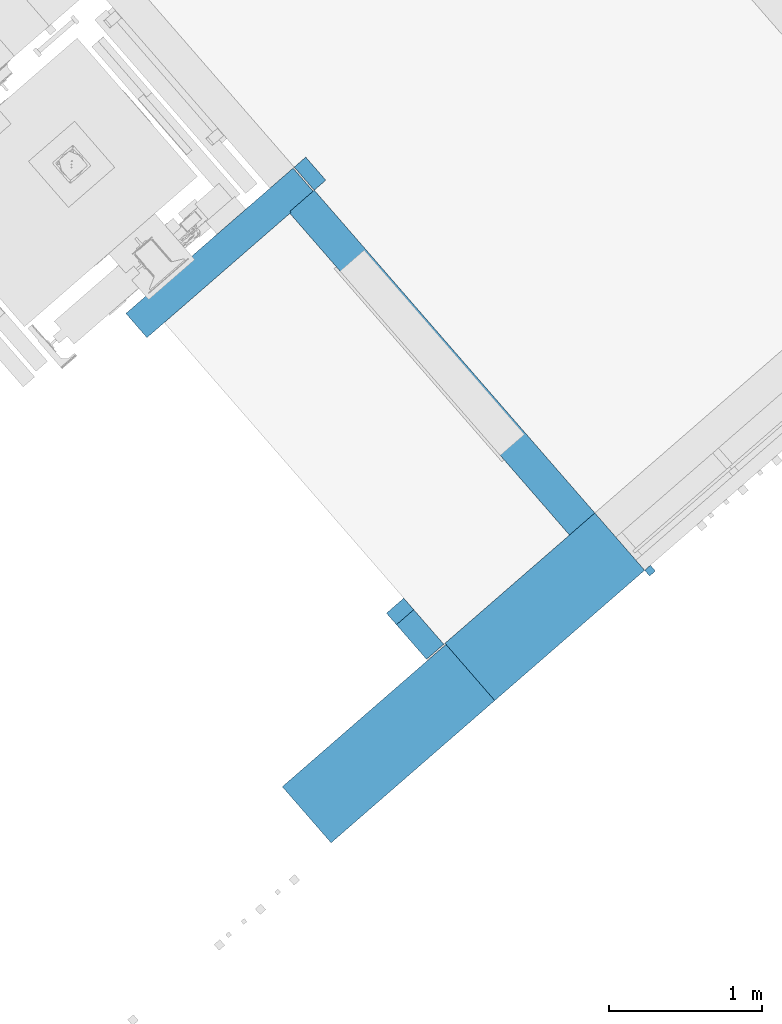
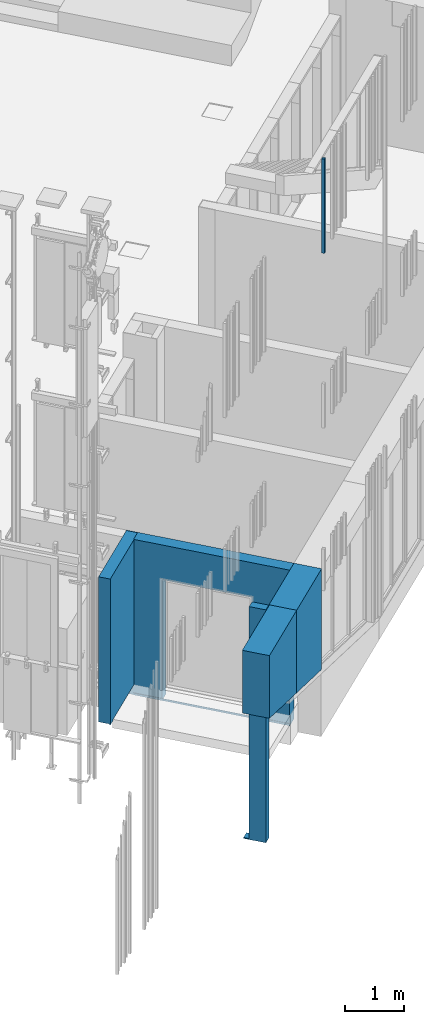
# One storey, part 31 of 124: 6 walls.
"""IFC2X3 building model written with IfcOpenShell, lengths in millimetres."""

from ifc_helpers import new_model, entity, si_unit, converted_unit, derived_unit, money_unit, direction, frame, origin_with_axes, place, context, subcontext, project, spatial, faceted_brep, material, material_list, type_object, element, save


model = new_model("IFC2X3")

# Units and contexts
model_context = context("Model", 3, precision=1e-05, world=origin_with_axes(), true_north=direction((0.0, 1.0)))
body_context = subcontext(model_context, "Body", "Model", "MODEL_VIEW")
ifc_project = project(units=[si_unit("LENGTHUNIT", "METRE", prefix="MILLI"), si_unit("AREAUNIT", "SQUARE_METRE"), si_unit("VOLUMEUNIT", "CUBIC_METRE"), converted_unit("PLANEANGLEUNIT", "DEGREE", entity("IfcPlaneAngleMeasure", 0.0174532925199), si_unit("PLANEANGLEUNIT", "RADIAN"), dimensions=[0, 0, 0, 0, 0, 0, 0]), si_unit("SOLIDANGLEUNIT", "STERADIAN"), money_unit("EUR"), converted_unit("TIMEUNIT", "Year", entity("IfcTimeMeasure", 31556926.0), si_unit("TIMEUNIT", "SECOND"), dimensions=[0, 0, 1, 0, 0, 0, 0]), si_unit("MASSUNIT", "GRAM", prefix="KILO"), si_unit("THERMODYNAMICTEMPERATUREUNIT", "DEGREE_CELSIUS"), si_unit("LUMINOUSINTENSITYUNIT", "LUMEN"), si_unit("ENERGYUNIT", "JOULE", prefix="MEGA"), derived_unit("THERMALCONDUCTANCEUNIT", [(si_unit("POWERUNIT", "WATT"), 1), (si_unit("LENGTHUNIT", "METRE"), -1), (si_unit("THERMODYNAMICTEMPERATUREUNIT", "KELVIN"), -1)]), derived_unit("SPECIFICHEATCAPACITYUNIT", [(si_unit("ENERGYUNIT", "JOULE"), 1), (si_unit("MASSUNIT", "GRAM", prefix="KILO"), -1), (si_unit("THERMODYNAMICTEMPERATUREUNIT", "KELVIN"), -1)]), derived_unit("MASSDENSITYUNIT", [(si_unit("MASSUNIT", "GRAM", prefix="KILO"), 1), (si_unit("VOLUMEUNIT", "CUBIC_METRE"), -1)])], contexts=[model_context])

# Site, building, storey
site_placement = place(None, origin_with_axes())
site = spatial("IfcSite", under=ifc_project, at=site_placement, Name="Site", CompositionType="ELEMENT")
building_placement = place(site_placement, origin_with_axes())
building = spatial("IfcBuilding", under=site, at=building_placement, Name="Building", CompositionType="ELEMENT")
storey_placement = place(building_placement, frame((0.0, 0.0, -1615.0), z_axis=(0.0, 0.0, 1.0), x_axis=(1.0, 0.0, 0.0)))
storey = spatial("IfcBuildingStorey", under=building, at=storey_placement, Name="0  korrus", CompositionType="ELEMENT", Elevation=-1615.0)

# Walls
ifc_material_1 = material(Name="Müüriplokk - Konstuktsioon")
wall_type_1 = type_object("IfcWallType", Name="SS-06", PredefinedType="NOTDEFINED")
wall_1_placement = place(storey_placement, frame((149434.774748, 75223.9412925, -1820.0), z_axis=(0.0, 0.0, 1.0), x_axis=(-0.656059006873, 0.754709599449, 0.0)))
element("IfcWall", 1, at=wall_1_placement, inside=storey, type_object=wall_type_1, material=ifc_material_1, Name="SS-06", context=body_context, shape_type="Brep", body=[
    faceted_brep([(399.992824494, -150.0, 20.0), (299.992820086, -150.0, 20.0), (299.992820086, -150.0, 4820.0), (0.0, -150.0, 4820.0), (0.0, -150.0, 0.0), (399.992824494, -150.0, 0.0), (399.992820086, 0.0, 20.0), (299.992820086, 0.0, 20.0), (299.992820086, 0.0, 4820.0), (0.0, 0.0, 4820.0), (0.0, 0.0, 0.0), (399.992820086, 0.0, 0.0)], [[[0, 1, 2, 3, 4, 5]], [[6, 7, 1, 0]], [[1, 7, 8, 2]], [[9, 3, 2, 8]], [[9, 10, 4, 3]], [[4, 10, 11, 5]], [[5, 11, 6, 0]], [[10, 9, 8, 7, 6, 11]]]),
])
ifc_material_2 = material(Name="Krohv - Lubjakivi")
ifc_material_3 = material(Name="Raudbetoon - Konstruktsioon")
ifc_material_list_1 = material_list([ifc_material_2, ifc_material_3, ifc_material_2, ifc_material_2])
wall_type_2 = type_object("IfcWallType", Name="SS-10", PredefinedType="NOTDEFINED")
wall_2_placement = place(storey_placement, frame((148402.4644, 78301.606577, -220.0), z_axis=(0.0, 0.0, 1.0), x_axis=(0.656059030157, -0.754709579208, 0.0)))
element("IfcWall", 2, at=wall_2_placement, inside=storey, type_object=wall_type_2, material=ifc_material_list_1, Name="SS-10", context=body_context, shape_type="Brep", body=[
    faceted_brep([(709.999999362, 220.0, 2500.0), (709.999999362, 220.0000005, 220.0), (709.999999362, 220.0, 0.0), (-0.000990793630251, 220.0, 0.0), (-0.000990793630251, 220.0000005, 200.0), (199.999009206, 220.000000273, 200.0), (199.999009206, 220.000000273, 219.999999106), (-0.000990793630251, 220.0000005, 219.999999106), (-0.000113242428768, 220.0, 3220.0), (2999.99999884, 220.0, 3220.0), (2999.99999884, 220.0, 0.0), (2309.99999936, 220.0, 0.0), (2309.99999936, 220.0000005, 220.0), (2309.99999936, 220.0, 2500.0), (709.999999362, 210.0, 2500.0), (709.999999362, 210.0, 220.0), (709.999999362, 210.0, 0.0), (-0.000984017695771, 210.0, 0.0), (-0.000984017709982, 210.0, 200.0), (199.999015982, 210.0, 200.0), (199.999015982, 210.0, 219.999999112), (-0.000984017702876, 210.0, 219.999999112), (-0.000108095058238, 210.0, 3220.0), (2999.99999884, 210.0, 3220.0), (2999.99999884, 210.0, 0.0), (2309.99999936, 210.0, 0.0), (2309.99999936, 210.0, 220.0), (2309.99999936, 210.0, 2500.0)], [[[0, 1, 2, 3, 4, 5, 6, 7, 8, 9, 10, 11, 12, 13]], [[1, 0, 14, 15]], [[1, 15, 16, 2]], [[16, 17, 3, 2]], [[18, 4, 3, 17]], [[5, 4, 18, 19]], [[6, 5, 19, 20]], [[7, 6, 20, 21]], [[7, 21, 22, 8]], [[9, 8, 22, 23]], [[23, 24, 10, 9]], [[11, 10, 24, 25]], [[26, 12, 11, 25]], [[13, 12, 26, 27]], [[0, 13, 27, 14]], [[27, 26, 25, 24, 23, 22, 21, 20, 19, 18, 17, 16, 15, 14]]]),
    faceted_brep([(709.999999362, 210.0, 2500.0), (709.999999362, 210.0, 220.0), (709.999999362, 210.0, 0.0), (-0.000984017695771, 210.0, 0.0), (-0.000984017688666, 210.0, 200.0), (199.999015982, 210.0, 200.0), (199.999891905, 210.0, 3220.0), (2999.99999884, 210.0, 3220.0), (2999.99999884, 210.0, 0.0), (2309.99999936, 210.0, 0.0), (2309.99999936, 210.0, 220.0), (2309.99999936, 210.0, 2500.0), (709.999999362, 10.0024561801, 2500.0), (709.999999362, 10.0025503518, 2494.88151173), (709.999999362, 10.0025508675, 220.0), (709.999999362, 10.0025508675, 0.0), (-0.000848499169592, 9.99999999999, 0.0), (-0.000848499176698, 9.99999999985, 200.0), (199.999151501, 10.0, 200.0), (199.999994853, 10.0, 3220.0), (2999.99999884, 9.99999999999, 3220.0), (2999.99999884, 9.99999999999, 0.0), (2309.99999936, 10.0105514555, 0.0), (2309.99999936, 10.0105514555, 220.0), (2309.99999936, 9.99999999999, 793.499998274), (2309.99999936, 9.99999999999, 2500.0), (826.086952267, 10.0, 2500.0)], [[[0, 1, 2, 3, 4, 5, 6, 7, 8, 9, 10, 11]], [[1, 0, 12, 13, 14]], [[1, 14, 15, 2]], [[15, 16, 3, 2]], [[4, 3, 16, 17]], [[4, 17, 18, 5]], [[5, 18, 19, 6]], [[19, 20, 7, 6]], [[21, 8, 7, 20]], [[9, 8, 21, 22]], [[23, 10, 9, 22]], [[11, 10, 23, 24, 25]], [[0, 11, 25, 26, 12]], [[12, 26, 19, 13]], [[14, 13, 19, 18, 17, 16, 15]], [[25, 24, 21, 20, 19, 26]], [[22, 21, 23]], [[24, 23, 21]]]),
    faceted_brep([(200.000000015, 10.00000068, 40.0), (2999.99999884, 9.99999999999, 40.0), (2999.99999884, 9.99999999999, 0.0), (199.999151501, 10.0001360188, 0.0), (2999.99999884, 0.0, 40.0), (200.000005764, 4.83169060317e-10, 40.0), (2999.99999884, 0.0, 0.0), (199.999158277, 0.0, 0.0)], [[[0, 1, 2, 3]], [[4, 1, 0, 5]], [[1, 4, 6, 2]], [[6, 7, 3, 2]], [[5, 0, 3, 7]], [[4, 5, 7, 6]]]),
    faceted_brep([(709.999999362, 9.99999999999, 2500.0), (709.999999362, 10.0000416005, 220.0), (209.999994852, 10.0000506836, 220.0), (209.999994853, 10.0, 3220.0), (2999.99999884, 9.99999999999, 3220.0), (2999.99999884, 9.99999999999, 220.0), (2309.99999936, 10.0000125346, 220.0), (2309.99999936, 9.99999999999, 2500.0), (709.999999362, 0.0, 2500.0), (709.999999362, 0.0, 220.0), (210.0, 0.0, 220.0), (210.0, 0.0, 3220.0), (2999.99999884, 0.0, 3220.0), (2999.99999884, 0.0, 220.0), (2309.99999936, 0.0, 220.0), (2309.99999936, 0.0, 2500.0)], [[[0, 1, 2, 3, 4, 5, 6, 7]], [[1, 0, 8, 9]], [[1, 9, 10, 2]], [[10, 11, 3, 2]], [[3, 11, 12, 4]], [[5, 4, 12, 13]], [[14, 6, 5, 13]], [[7, 6, 14, 15]], [[0, 7, 15, 8]], [[15, 14, 13, 12, 11, 10, 9, 8]]]),
])
ifc_material_list_2 = material_list([ifc_material_2, ifc_material_3, ifc_material_3])
wall_type_3 = type_object("IfcWallType", Name="SS-11", PredefinedType="NOTDEFINED")
wall_3_placement = place(storey_placement, frame((148402.4644, 78301.606577, -20.0), z_axis=(0.0, 0.0, 1.0), x_axis=(-0.75470924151, -0.656059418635, 0.0)))
element("IfcWall", 3, at=wall_3_placement, inside=storey, type_object=wall_type_3, material=ifc_material_list_2, Name="SS-11", context=body_context, shape_type="Brep", body=[
    faceted_brep([(1090.03568854, 210.0, 0.0), (1090.03568854, 210.0, 20.0), (0.000108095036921, 210.0, 20.0), (-9.99989190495, 210.0, 19.9999992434), (-9.99989190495, 210.0, 3020.0), (1240.0317344, 210.0, 3020.0), (1240.0317344, 210.0, 0.0), (1090.03568334, 200.000071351, 0.0), (1090.03568334, 200.000071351, 20.0), (0.000102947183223, 200.000005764, 20.0), (-9.99989705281, 199.999158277, 19.9999992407), (-9.99989705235, 200.0, 3020.0), (1240.0317344, 200.0, 3020.0), (1240.0317344, 200.0, 0.0)], [[[0, 1, 2, 3, 4, 5, 6]], [[1, 0, 7, 8]], [[2, 1, 8, 9, 10, 3]], [[4, 3, 10, 11]], [[5, 4, 11, 12]], [[5, 12, 13, 6]], [[7, 0, 6, 13]], [[8, 7, 13, 12, 11, 10, 9]]]),
    faceted_brep([(1239.99996943, 199.999360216, 20.0), (1240.0317344, 199.9993602, 20.0), (1240.0317344, 0.0, 20.0), (1240.000002, -0.000639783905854, 20.0), (1240.0317344, 200.0, 3020.0), (-9.99989705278, 199.999156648, 19.9999992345), (-209.999897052, 200.0, 20.0), (-209.999897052, 200.0, 3020.0), (1240.0317344, 0.0, 3020.0), (-210.0, 0.0, 3020.0), (-210.0, -0.000816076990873, 20.0)], [[[0, 1, 2, 3]], [[4, 1, 0, 5, 6, 7]], [[1, 4, 8, 2]], [[2, 8, 9, 10, 3]], [[0, 3, 10, 6, 5]], [[7, 6, 10, 9]], [[8, 4, 7, 9]]]),
    faceted_brep([(-219.999897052, 200.0, 20.0), (-219.999897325, 199.999122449, 0.0), (-320.0, 200.0, 0.0), (-320.0, 200.0, 20.0), (-220.0, 0.0, 20.0), (-220.000000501, -0.000877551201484, 0.0), (-320.0, 0.0, 0.0), (-320.0, 0.0, 20.0)], [[[0, 1, 2, 3]], [[1, 0, 4, 5]], [[1, 5, 6, 2]], [[6, 7, 3, 2]], [[4, 0, 3, 7]], [[7, 6, 5, 4]]]),
])
ifc_material_4 = material(Name="Raudbetoon - Toode")
ifc_material_5 = material(Name="Soojustus - Plastik Kõva")
ifc_material_6 = material(Name="Õhkvahe")
ifc_material_7 = material(Name="Puit - Konstruktsioon")
ifc_material_list_3 = material_list([ifc_material_4, ifc_material_5, ifc_material_5, ifc_material_6, ifc_material_7, ifc_material_7])
wall_type_4 = type_object("IfcWallType", Name="VS-01*", PredefinedType="NOTDEFINED")
wall_4_placement = place(storey_placement, frame((148490.428141, 74389.7831815, -415.0), z_axis=(0.0, 0.0, 1.0), x_axis=(0.754709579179, 0.656059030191, 0.0)))
element("IfcWall", 4, at=wall_4_placement, inside=storey, type_object=wall_type_4, material=ifc_material_list_3, Name="VS-01*", context=body_context, shape_type="Brep", body=[
    faceted_brep([(0.0, -200.0, 2117.99999366), (1419.96442219, -200.0, 1706.64205776), (1419.96442219, -200.0, 3415.0), (0.0, -200.0, 3415.0), (1419.96442219, 0.0, 1706.64205784), (0.0, 0.0, 2117.99999375), (1419.96442219, 0.0, 3415.0), (0.0, 0.0, 3415.0)], [[[0, 1, 2, 3]], [[4, 1, 0, 5]], [[1, 4, 6, 2]], [[7, 3, 2, 6]], [[5, 0, 3, 7]], [[4, 5, 7, 6]]]),
    faceted_brep([(0.0, -350.0, 2117.9999936), (1419.96442219, -350.0, 1706.6420577), (1419.96442219, -350.0, 3415.0), (0.0, -350.0, 3415.0), (1419.96442219, -200.0, 1706.64205776), (0.0, -200.0, 2117.99999366), (1419.96442219, -200.0, 3415.0), (0.0, -200.0, 3415.0)], [[[0, 1, 2, 3]], [[4, 1, 0, 5]], [[1, 4, 6, 2]], [[7, 3, 2, 6]], [[5, 0, 3, 7]], [[4, 5, 7, 6]]]),
    faceted_brep([(0.0, -400.0, 2117.99999358), (1419.96442219, -400.0, 1706.64205767), (1419.96442219, -400.0, 3415.0), (0.0, -400.0, 3415.0), (1419.96442219, -350.0, 1706.6420577), (0.0, -350.0, 2117.9999936), (1419.96442219, -350.0, 3415.0), (0.0, -350.0, 3415.0)], [[[0, 1, 2, 3]], [[4, 1, 0, 5]], [[1, 4, 6, 2]], [[7, 3, 2, 6]], [[5, 0, 3, 7]], [[4, 5, 7, 6]]]),
    faceted_brep([(0.0, -445.0, 2117.99999356), (1419.96442219, -445.0, 1706.64205766), (1419.96442219, -445.0, 3415.0), (0.0, -445.0, 3415.0), (1419.96442219, -400.0, 1706.64205767), (0.0, -400.0, 2117.99999358), (1419.96442219, -400.0, 3415.0), (0.0, -400.0, 3415.0)], [[[0, 1, 2, 3]], [[4, 1, 0, 5]], [[1, 4, 6, 2]], [[7, 3, 2, 6]], [[5, 0, 3, 7]], [[4, 5, 7, 6]]]),
    faceted_brep([(0.0, -465.0, 2117.99999355), (1419.96442219, -465.0, 1706.64205765), (1419.96442219, -465.0, 3415.0), (0.0, -465.0, 3415.0), (1419.96442219, -445.0, 1706.64205766), (0.0, -445.0, 2117.99999356), (1419.96442219, -445.0, 3415.0), (0.0, -445.0, 3415.0)], [[[0, 1, 2, 3]], [[4, 1, 0, 5]], [[1, 4, 6, 2]], [[7, 3, 2, 6]], [[5, 0, 3, 7]], [[4, 5, 7, 6]]]),
    faceted_brep([(0.0, -487.0, 2117.99999354), (1419.96442219, -487.0, 1706.64205764), (1419.96442219, -487.0, 3415.0), (0.0, -487.0, 3415.0), (1419.96442219, -465.0, 1706.64205765), (0.0, -465.0, 2117.99999355), (1419.96442219, -465.0, 3415.0), (0.0, -465.0, 3415.0)], [[[0, 1, 2, 3]], [[4, 1, 0, 5]], [[1, 4, 6, 2]], [[7, 3, 2, 6]], [[5, 0, 3, 7]], [[4, 5, 7, 6]]]),
])
ifc_material_list_4 = material_list([ifc_material_2, ifc_material_4, ifc_material_5, ifc_material_5, ifc_material_6, ifc_material_7, ifc_material_7])
wall_type_5 = type_object("IfcWallType", Name="VS-01", PredefinedType="NOTDEFINED")
wall_5_placement = place(storey_placement, frame((149555.526075, 75328.9088223, 927.022935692), z_axis=(0.0, 0.0, 1.0), x_axis=(0.754705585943, 0.656063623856, 0.0)))
element("IfcWall", 5, at=wall_5_placement, inside=storey, type_object=wall_type_5, material=ifc_material_list_4, Name="VS-01", context=body_context, shape_type="Brep", body=[
    faceted_brep([(0.0, -10.0, 364.619959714), (1258.62983363, -10.0, 0.0), (1300.04958561, -10.0, 0.0), (1300.04958561, -10.0, 2072.97706431), (0.0, -10.0, 2072.97706431), (1258.62989451, 0.0, 0.0), (0.0, 0.0, 364.619977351), (1300.04958561, 0.0, 0.0), (1300.04958561, 0.0, 2072.97706431), (0.0, 0.0, 2072.97706431)], [[[0, 1, 2, 3, 4]], [[5, 1, 0, 6]], [[1, 5, 7, 2]], [[8, 3, 2, 7]], [[4, 3, 8, 9]], [[6, 0, 4, 9]], [[5, 6, 9, 8, 7]]]),
    faceted_brep([(0.0, -210.0, 364.619606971), (1258.628616, -210.0, 0.0), (1300.04958561, -210.0, 0.0), (1300.04958561, -210.0, 2072.97706431), (0.0, -210.0, 2072.97706431), (1258.62983363, -10.0, 0.0), (0.0, -10.0, 364.619959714), (1300.04958561, -10.0, 0.0), (1300.04958561, -10.0, 2072.97706431), (0.0, -10.0, 2072.97706431)], [[[0, 1, 2, 3, 4]], [[5, 1, 0, 6]], [[1, 5, 7, 2]], [[8, 3, 2, 7]], [[4, 3, 8, 9]], [[6, 0, 4, 9]], [[5, 6, 9, 8, 7]]]),
    faceted_brep([(0.0, -360.0, 364.619342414), (1258.62770277, -360.0, 0.0), (1300.04958561, -360.0, 0.0), (1300.04958561, -360.0, 2072.97706431), (0.0, -360.0, 2072.97706431), (1258.628616, -210.0, 0.0), (0.0, -210.0, 364.619606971), (1300.04958561, -210.0, 0.0), (1300.04958561, -210.0, 2072.97706431), (0.0, -210.0, 2072.97706431)], [[[0, 1, 2, 3, 4]], [[5, 1, 0, 6]], [[1, 5, 7, 2]], [[8, 3, 2, 7]], [[4, 3, 8, 9]], [[6, 0, 4, 9]], [[5, 6, 9, 8, 7]]]),
    faceted_brep([(0.0, -410.0, 364.619254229), (1258.62739836, -410.0, 0.0), (1300.04958561, -410.0, 0.0), (1300.04958561, -410.0, 2072.97706431), (0.0, -410.0, 2072.97706431), (1258.62770277, -360.0, 0.0), (0.0, -360.0, 364.619342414), (1300.04958561, -360.0, 0.0), (1300.04958561, -360.0, 2072.97706431), (0.0, -360.0, 2072.97706431)], [[[0, 1, 2, 3, 4]], [[5, 1, 0, 6]], [[1, 5, 7, 2]], [[8, 3, 2, 7]], [[4, 3, 8, 9]], [[6, 0, 4, 9]], [[5, 6, 9, 8, 7]]]),
    faceted_brep([(0.0, -455.0, 364.619174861), (1258.6271244, -455.0, 0.0), (1300.04958561, -455.0, 0.0), (1300.04958561, -455.0, 2072.97706431), (0.0, -455.0, 2072.97706431), (1258.62739836, -410.0, 0.0), (0.0, -410.0, 364.619254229), (1300.04958561, -410.0, 0.0), (1300.04958561, -410.0, 2072.97706431), (0.0, -410.0, 2072.97706431)], [[[0, 1, 2, 3, 4]], [[5, 1, 0, 6]], [[1, 5, 7, 2]], [[8, 3, 2, 7]], [[4, 3, 8, 9]], [[6, 0, 4, 9]], [[5, 6, 9, 8, 7]]]),
    faceted_brep([(0.0, -475.0, 364.619139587), (1258.62700263, -475.0, 0.0), (1300.04958561, -475.0, 0.0), (1300.04958561, -475.0, 2072.97706431), (0.0, -475.0, 2072.97706431), (1258.6271244, -455.0, 0.0), (0.0, -455.0, 364.619174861), (1300.04958561, -455.0, 0.0), (1300.04958561, -455.0, 2072.97706431), (0.0, -455.0, 2072.97706431)], [[[0, 1, 2, 3, 4]], [[5, 1, 0, 6]], [[1, 5, 7, 2]], [[8, 3, 2, 7]], [[4, 3, 8, 9]], [[6, 0, 4, 9]], [[5, 6, 9, 8, 7]]]),
    faceted_brep([(0.0, -497.0, 364.619100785), (1258.62686869, -497.0, 0.0), (1300.04958561, -497.0, 0.0), (1300.04958561, -497.0, 2072.97706431), (0.0, -497.0, 2072.97706431), (1258.62700263, -475.0, 0.0), (0.0, -475.0, 364.619139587), (1300.04958561, -475.0, 0.0), (1300.04958561, -475.0, 2072.97706431), (0.0, -475.0, 2072.97706431)], [[[0, 1, 2, 3, 4]], [[5, 1, 0, 6]], [[1, 5, 7, 2]], [[8, 3, 2, 7]], [[4, 3, 8, 9]], [[6, 0, 4, 9]], [[5, 6, 9, 8, 7]]]),
])
ifc_material_8 = material(Name="Site specified")
wall_type_6 = type_object("IfcWallType", Name="Puitfassaadi ribistik", PredefinedType="NOTDEFINED")
wall_6_placement = place(storey_placement, frame((150898.00815, 75804.2539016, 9530.0), z_axis=(0.0, 0.0, 1.0), x_axis=(-0.754709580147, -0.656059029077, 0.0)))
element("IfcWall", 6, at=wall_6_placement, inside=storey, type_object=wall_type_6, material=ifc_material_8, Name="Site specified", context=body_context, shape_type="Brep", body=[
    faceted_brep([(25.0, 25.0, 1950.0), (25.0, 25.0, 0.0), (-25.0, 25.0, 0.0), (-25.0, 25.0, 1950.0), (25.0, -25.0, 1950.0), (25.0, -25.0, 0.0), (-25.0, -25.0, 0.0), (-25.0, -25.0, 1950.0)], [[[0, 1, 2, 3]], [[4, 5, 1, 0]], [[2, 1, 5, 6]], [[3, 2, 6, 7]], [[4, 0, 3, 7]], [[7, 6, 5, 4]]]),
])

save(model, "model.ifc")
